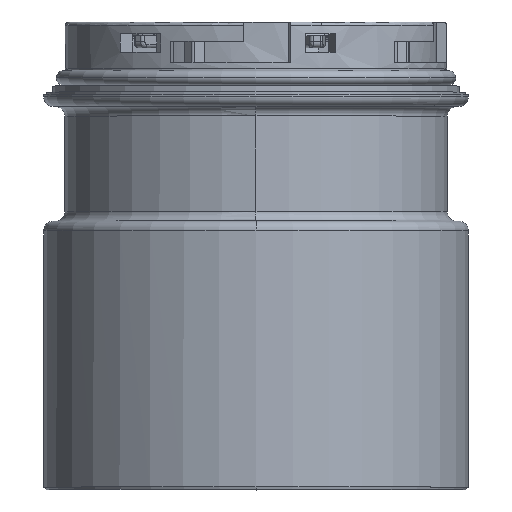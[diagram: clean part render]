
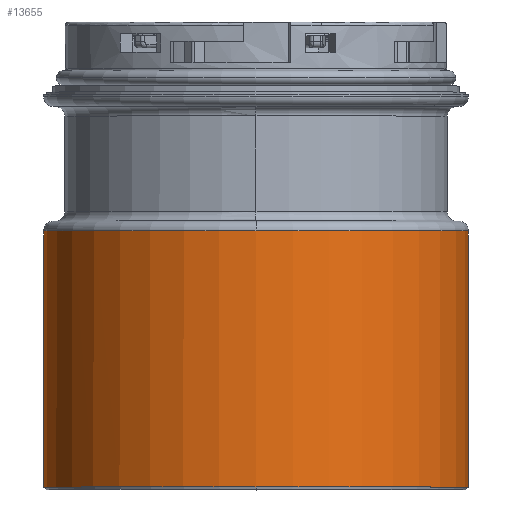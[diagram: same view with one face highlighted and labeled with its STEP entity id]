
A CAD part, top view. The second image highlights one B-rep face of the part: STEP entity #13655.
In plain terms, the highlighted cylindrical face has radius 35 mm (diameter 70 mm), a partial arc.
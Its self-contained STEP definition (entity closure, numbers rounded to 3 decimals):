
#985=CARTESIAN_POINT('',(0.,42.617,0.));
#986=DIRECTION('',(0.,-1.,0.));
#987=DIRECTION('',(0.,0.,1.));
#988=AXIS2_PLACEMENT_3D('',#985,#986,#987);
#990=CARTESIAN_POINT('',(0.,42.617,0.));
#991=DIRECTION('',(0.,-1.,0.));
#992=DIRECTION('',(-1.,0.,0.006));
#993=AXIS2_PLACEMENT_3D('',#990,#991,#992);
#1014=DIRECTION('',(0.,1.,0.));
#1015=VECTOR('',#1014,42.217);
#1016=CARTESIAN_POINT('',(35.,0.4,0.));
#1017=LINE('',#1016,#1015);
#1018=DIRECTION('',(0.,1.,0.));
#1019=VECTOR('',#1018,42.217);
#1020=CARTESIAN_POINT('',(-35.,0.4,0.));
#1021=LINE('',#1020,#1019);
#1022=CARTESIAN_POINT('',(0.,42.617,0.));
#1023=DIRECTION('',(0.,-1.,0.));
#1024=DIRECTION('',(1.,0.,0.));
#1025=AXIS2_PLACEMENT_3D('',#1022,#1023,#1024);
#1113=CARTESIAN_POINT('',(0.,0.4,0.));
#1114=DIRECTION('',(0.,1.,0.));
#1115=DIRECTION('',(-1.,0.,0.));
#1116=AXIS2_PLACEMENT_3D('',#1113,#1114,#1115);
#10198=CARTESIAN_POINT('',(-35.,42.617,0.));
#10200=VERTEX_POINT('',#10198);
#10202=CARTESIAN_POINT('',(35.,42.617,0.));
#10203=VERTEX_POINT('',#10202);
#10208=CARTESIAN_POINT('',(0.,42.617,35.));
#10209=VERTEX_POINT('',#10208);
#10210=CARTESIAN_POINT('',(-34.999,42.617,
0.205));
#10211=VERTEX_POINT('',#10210);
#10212=CARTESIAN_POINT('',(-35.,0.4,0.));
#10213=VERTEX_POINT('',#10212);
#10230=CARTESIAN_POINT('',(35.,0.4,0.));
#10231=VERTEX_POINT('',#10230);
#13640=CARTESIAN_POINT('',(0.,0.,0.));
#13641=DIRECTION('',(0.,1.,0.));
#13642=DIRECTION('',(1.,0.,0.));
#13643=AXIS2_PLACEMENT_3D('',#13640,#13641,#13642);
#13644=CYLINDRICAL_SURFACE('',#13643,35.);
#13646=ORIENTED_EDGE('',*,*,#13645,.F.);
#13647=ORIENTED_EDGE('',*,*,#13635,.F.);
#13649=ORIENTED_EDGE('',*,*,#13648,.F.);
#13650=ORIENTED_EDGE('',*,*,#13611,.T.);
#13651=ORIENTED_EDGE('',*,*,#13599,.F.);
#13652=ORIENTED_EDGE('',*,*,#13597,.F.);
#13653=EDGE_LOOP('',(#13646,#13647,#13649,#13650,#13651,#13652));
#13654=FACE_OUTER_BOUND('',#13653,.F.);
#13655=ADVANCED_FACE('',(#13654),#13644,.T.);
#989=CIRCLE('',#988,35.);
#994=CIRCLE('',#993,35.);
#1026=CIRCLE('',#1025,35.);
#1117=CIRCLE('',#1116,35.);
#13597=EDGE_CURVE('',#10209,#10211,#989,.T.);
#13599=EDGE_CURVE('',#10211,#10200,#994,.T.);
#13611=EDGE_CURVE('',#10213,#10200,#1021,.T.);
#13635=EDGE_CURVE('',#10231,#10203,#1017,.T.);
#13645=EDGE_CURVE('',#10203,#10209,#1026,.T.);
#13648=EDGE_CURVE('',#10213,#10231,#1117,.T.);
